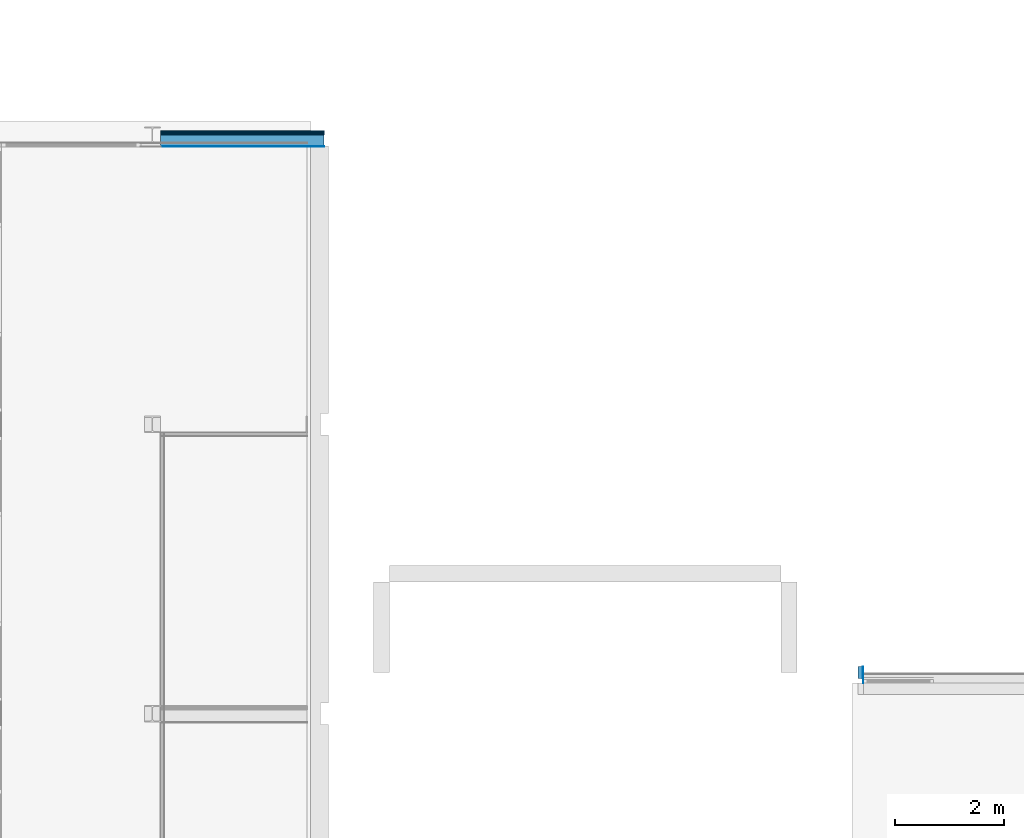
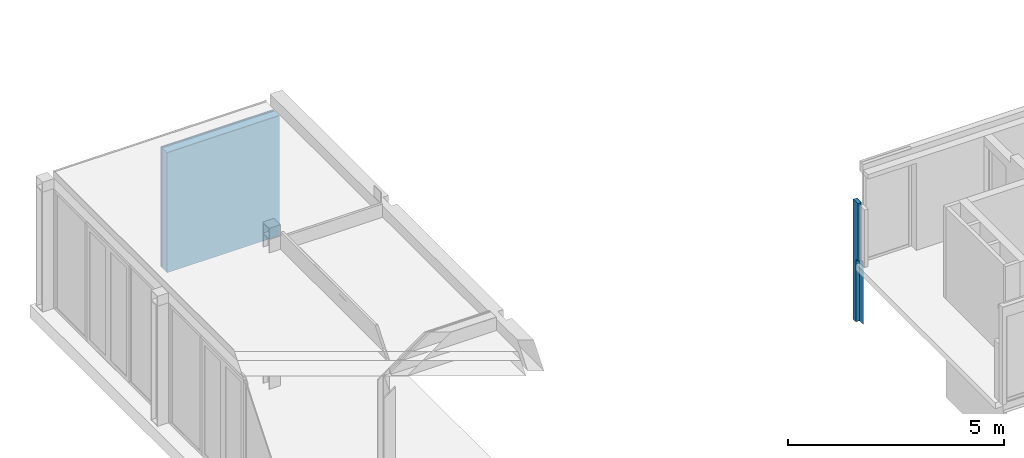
# One storey, part 74 of 99: 8 building element parts, 2 elements without a shape of their own.
"""IFC2X3 building model written with IfcOpenShell, lengths in millimetres."""

from ifc_helpers import new_model, entity, si_unit, converted_unit, derived_unit, money_unit, direction, frame, origin_with_axes, place, context, subcontext, project, spatial, faceted_brep, material, type_object, element, aggregate, save


model = new_model("IFC2X3")

# Units and contexts
model_context = context("Model", 3, precision=0.01, world=origin_with_axes(), true_north=direction((0.0, 1.0)))
body_context = subcontext(model_context, "Body", "Model", "MODEL_VIEW")
ifc_project = project(units=[si_unit("LENGTHUNIT", "METRE", prefix="MILLI"), si_unit("AREAUNIT", "SQUARE_METRE"), si_unit("VOLUMEUNIT", "CUBIC_METRE"), converted_unit("PLANEANGLEUNIT", "DEGREE", entity("IfcPlaneAngleMeasure", 0.0174532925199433), si_unit("PLANEANGLEUNIT", "RADIAN"), dimensions=[0, 0, 0, 0, 0, 0, 0]), money_unit("EUR"), converted_unit("TIMEUNIT", "Year", entity("IfcTimeMeasure", 31557600.0), si_unit("TIMEUNIT", "SECOND"), dimensions=[0, 0, 1, 0, 0, 0, 0]), si_unit("MASSUNIT", "GRAM", prefix="KILO"), si_unit("THERMODYNAMICTEMPERATUREUNIT", "DEGREE_CELSIUS"), si_unit("LUMINOUSINTENSITYUNIT", "LUMEN"), si_unit("ENERGYUNIT", "JOULE", prefix="MEGA"), derived_unit("THERMALCONDUCTANCEUNIT", [(si_unit("POWERUNIT", "WATT"), 1), (si_unit("LENGTHUNIT", "METRE"), -1), (si_unit("THERMODYNAMICTEMPERATUREUNIT", "KELVIN"), -1)]), derived_unit("SPECIFICHEATCAPACITYUNIT", [(si_unit("ENERGYUNIT", "JOULE"), 1), (si_unit("MASSUNIT", "GRAM", prefix="KILO"), -1), (si_unit("THERMODYNAMICTEMPERATUREUNIT", "KELVIN"), -1)]), derived_unit("MASSDENSITYUNIT", [(si_unit("MASSUNIT", "GRAM", prefix="KILO"), 1), (si_unit("VOLUMEUNIT", "CUBIC_METRE"), -1)])], contexts=[model_context])

# Site, building, storey
site_placement = place(None, origin_with_axes())
site = spatial("IfcSite", under=ifc_project, at=site_placement, Name="Site", CompositionType="ELEMENT")
building_placement = place(site_placement, origin_with_axes())
building = spatial("IfcBuilding", under=site, at=building_placement, Name="Naam gebouw", CompositionType="ELEMENT")
storey_placement = place(building_placement, frame((0.0, 0.0, 7650.0), z_axis=(0.0, 0.0, 1.0), x_axis=(1.0, 0.0, 0.0)))
storey = spatial("IfcBuildingStorey", under=building, at=storey_placement, Name="2e verdieping N", CompositionType="ELEMENT", Elevation=7650.0)

# Wall, building element parts
wall_type_1 = type_object("IfcWallType", Name="Basic Wall:41_WA_stucwerk op iso 100mm", PredefinedType="STANDARD")
wall_1_placement = place(storey_placement, frame((30341.50000003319, 39265.41242632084, -3500.0), z_axis=(0.0, 0.0, 1.0), x_axis=(0.0, 1.0, 0.0)))
wall_1 = element("IfcWall", 1, at=wall_1_placement, inside=storey, type_object=wall_type_1, Name="Basic Wall:41_WA_stucwerk op iso 100mm")
ifc_material_1 = material(Name="Verflaag ral 7044  Zijdengrijs Isostuc")
building_element_part_1_placement = place(wall_1_placement, origin_with_axes())
building_element_part_1 = element("IfcBuildingElementPart", 2, at=building_element_part_1_placement, material=ifc_material_1, Name="Verflaag ral 7044  Zijdengrijs Isostuc", context=body_context, shape_type="Brep", body=[
    faceted_brep([(0.0, -49.49999998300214, 1770.000000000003), (-85.50000004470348, -49.49999998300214, 1770.000000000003), (-85.50000004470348, -50.49999998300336, 1770.000000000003), (0.0, -50.49999998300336, 1770.000000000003), (215.4999999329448, -49.49999998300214, 0.0), (-85.50000004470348, -49.49999998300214, 0.0), (0.0, -49.49999998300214, 3399.999999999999), (215.4999999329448, -49.49999998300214, 3399.999999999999), (-85.50000004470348, -50.49999998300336, 0.0), (215.4999999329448, -50.49999998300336, 0.0), (215.4999999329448, -50.49999998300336, 3399.999999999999), (0.0, -50.49999998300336, 3399.999999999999)], [[[0, 1, 2, 3]], [[4, 5, 1, 0, 6, 7]], [[5, 8, 2, 1]], [[3, 2, 8, 9, 10, 11]], [[0, 3, 11, 6]], [[9, 8, 5, 4]], [[7, 6, 11, 10]], [[10, 9, 4, 7]]]),
])
ifc_material_2 = material(Name="isolatie_080_1-100")
building_element_part_2_placement = place(wall_1_placement, origin_with_axes())
building_element_part_2 = element("IfcBuildingElementPart", 3, at=building_element_part_2_placement, material=ifc_material_2, Name="isolatie_080_1-100", context=body_context, shape_type="Brep", body=[
    faceted_brep([(85.49999995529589, -39.49999998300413, 1769.999999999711), (85.49999995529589, -39.49999998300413, 0.0), (215.4999999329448, -39.49999998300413, 0.0), (215.4999999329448, -39.49999998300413, 3399.999999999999), (0.0, -39.49999998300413, 3399.999999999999), (0.0, -39.49999998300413, 1769.999999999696), (85.49999995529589, 50.50000001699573, 1769.999999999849), (85.49999995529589, 50.50000001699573, 0.0), (215.4999999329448, 50.50000001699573, 0.0), (215.4999999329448, 50.50000001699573, 3399.999999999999), (0.0, 50.49999182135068, 3399.999999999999), (0.0, 50.49999182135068, 1769.999999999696)], [[[0, 1, 2, 3, 4, 5]], [[1, 0, 6, 7]], [[1, 7, 8, 2]], [[3, 2, 8, 9]], [[9, 10, 4, 3]], [[11, 5, 4, 10]], [[6, 0, 5, 11]], [[6, 11, 10, 9, 8, 7]]]),
])
ifc_material_3 = material(Name="stucwerk - gevel gebouw V RAL 7044")
building_element_part_3_placement = place(wall_1_placement, origin_with_axes())
building_element_part_3 = element("IfcBuildingElementPart", 4, at=building_element_part_3_placement, material=ifc_material_3, Name="stucwerk - gevel gebouw V RAL 7044", context=body_context, shape_type="Brep", body=[
    faceted_brep([(85.49999995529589, -49.50000001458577, 1769.999999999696), (85.49999995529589, -49.50000001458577, 0.0), (215.4999999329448, -49.49999998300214, 0.0), (215.4999999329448, -49.49999998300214, 3399.999999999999), (0.0, -49.49999998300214, 3399.999999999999), (0.0, -49.50000001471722, 1769.999999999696), (85.49999995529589, -39.49999998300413, 1769.999999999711), (85.49999995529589, -39.49999998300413, 0.0), (215.4999999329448, -39.49999998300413, 0.0), (215.4999999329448, -39.49999998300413, 3399.999999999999), (0.0, -39.49999998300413, 3399.999999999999), (0.0, -39.49999998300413, 1769.999999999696)], [[[0, 1, 2, 3, 4, 5]], [[1, 0, 6, 7]], [[1, 7, 8, 2]], [[3, 2, 8, 9]], [[9, 10, 4, 3]], [[11, 5, 4, 10]], [[6, 0, 5, 11]], [[6, 11, 10, 9, 8, 7]]]),
])
aggregate(wall_1, [building_element_part_1, building_element_part_2, building_element_part_3])

wall_type_2 = type_object("IfcWallType", Name="Basic Wall:41_WA_houten delen vert HSB 300 breed", PredefinedType="STANDARD")
wall_2_placement = place(storey_placement, frame((17441.00000007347, 49210.91242629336, -3500.0), z_axis=(0.0, 0.0, 1.0), x_axis=(1.0, 0.0, 0.0)))
wall_2 = element("IfcWall", 5, at=wall_2_placement, inside=storey, type_object=wall_type_2, Name="Basic Wall:41_WA_houten delen vert HSB 300 breed")
ifc_material_4 = material(Name="Houten delen vert")
building_element_part_4_placement = place(wall_2_placement, origin_with_axes())
building_element_part_4 = element("IfcBuildingElementPart", 6, at=building_element_part_4_placement, material=ifc_material_4, Name="Houten delen vert", context=body_context, shape_type="Brep", body=[
    faceted_brep([(0.0, 149.9999999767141, 0.0), (3012.499999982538, 149.9999999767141, 0.0), (3012.499999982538, 124.9999999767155, 0.0), (0.0, 124.9999999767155, 0.0), (0.0, 149.9999999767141, 3399.999999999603), (3012.499999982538, 149.9999999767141, 3399.999999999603), (3012.499999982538, 124.9999999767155, 3399.999999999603), (0.0, 124.9999999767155, 3399.999999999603)], [[[0, 1, 2, 3]], [[4, 5, 1, 0]], [[2, 1, 5, 6]], [[3, 2, 6, 7]], [[4, 0, 3, 7]], [[7, 6, 5, 4]]]),
])
ifc_material_5 = material(Name="luchtspouw")
building_element_part_5_placement = place(wall_2_placement, origin_with_axes())
building_element_part_5 = element("IfcBuildingElementPart", 7, at=building_element_part_5_placement, material=ifc_material_5, Name="luchtspouw", context=body_context, shape_type="Brep", body=[
    faceted_brep([(0.0, 124.9999999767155, 0.0), (3012.499999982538, 124.9999999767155, 0.0), (3012.499999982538, 102.999999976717, 0.0), (0.0, 102.999999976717, 0.0), (0.0, 124.9999999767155, 3399.999999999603), (3012.499999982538, 124.9999999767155, 3399.999999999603), (3012.499999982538, 102.999999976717, 3399.999999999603), (0.0, 102.999999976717, 3399.999999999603)], [[[0, 1, 2, 3]], [[4, 5, 1, 0]], [[2, 1, 5, 6]], [[3, 2, 6, 7]], [[4, 0, 3, 7]], [[7, 6, 5, 4]]]),
])
building_element_part_6_placement = place(wall_2_placement, origin_with_axes())
building_element_part_6 = element("IfcBuildingElementPart", 8, at=building_element_part_6_placement, material=ifc_material_5, Name="luchtspouw", context=body_context, shape_type="Brep", body=[
    faceted_brep([(0.0, 102.999999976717, 0.0), (3012.499999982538, 102.999999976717, 0.0), (3012.499999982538, 74.99999997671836, 0.0), (0.0, 74.99999997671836, 0.0), (0.0, 102.999999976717, 3399.999999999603), (3012.499999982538, 102.999999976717, 3399.999999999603), (3012.499999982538, 74.99999997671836, 3399.999999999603), (0.0, 74.99999997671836, 3399.999999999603)], [[[0, 1, 2, 3]], [[4, 5, 1, 0]], [[2, 1, 5, 6]], [[3, 2, 6, 7]], [[4, 0, 3, 7]], [[7, 6, 5, 4]]]),
])
ifc_material_6 = material(Name="Multiplex")
building_element_part_7_placement = place(wall_2_placement, origin_with_axes())
building_element_part_7 = element("IfcBuildingElementPart", 9, at=building_element_part_7_placement, material=ifc_material_6, Name="Multiplex", context=body_context, shape_type="Brep", body=[
    faceted_brep([(3012.499999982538, -138.0000000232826, 0.0), (3012.499999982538, -150.0000000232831, 0.0), (0.0, -150.0000000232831, 0.0), (0.0, -138.0000000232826, 0.0), (3012.499999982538, -138.0000000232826, 3399.999999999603), (3012.499999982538, -150.0000000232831, 3399.999999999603), (0.0, -150.0000000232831, 3399.999999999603), (0.0, -138.0000000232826, 3399.999999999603)], [[[0, 1, 2, 3]], [[0, 4, 5, 1]], [[1, 5, 6, 2]], [[3, 2, 6, 7]], [[4, 0, 3, 7]], [[5, 4, 7, 6]]]),
])
ifc_material_7 = material(Name="isolatie")
building_element_part_8_placement = place(wall_2_placement, origin_with_axes())
building_element_part_8 = element("IfcBuildingElementPart", 10, at=building_element_part_8_placement, material=ifc_material_7, Name="isolatie", context=body_context, shape_type="Brep", body=[
    faceted_brep([(0.0, 74.99999997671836, 0.0), (3012.499999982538, 74.99999997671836, 0.0), (3012.499999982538, -138.0000000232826, 0.0), (0.0, -138.0000000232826, 0.0), (0.0, 74.99999997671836, 3399.999999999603), (3012.499999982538, 74.99999997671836, 3399.999999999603), (3012.499999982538, -138.0000000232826, 3399.999999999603), (0.0, -138.0000000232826, 3399.999999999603)], [[[0, 1, 2, 3]], [[4, 5, 1, 0]], [[2, 1, 5, 6]], [[3, 2, 6, 7]], [[4, 0, 3, 7]], [[7, 6, 5, 4]]]),
])
aggregate(wall_2, [building_element_part_4, building_element_part_5, building_element_part_6, building_element_part_7, building_element_part_8])

save(model, "model.ifc")
